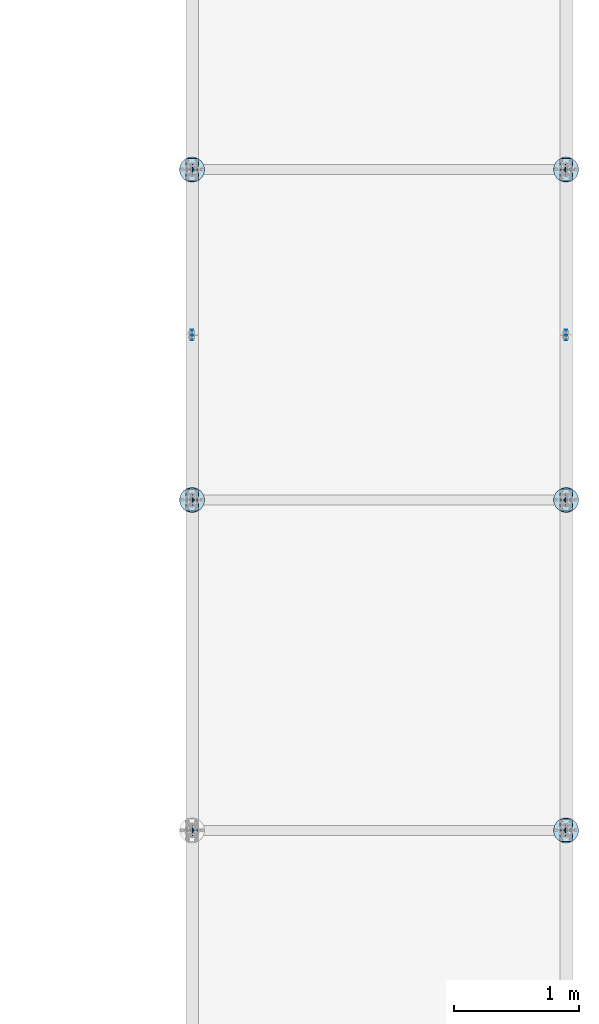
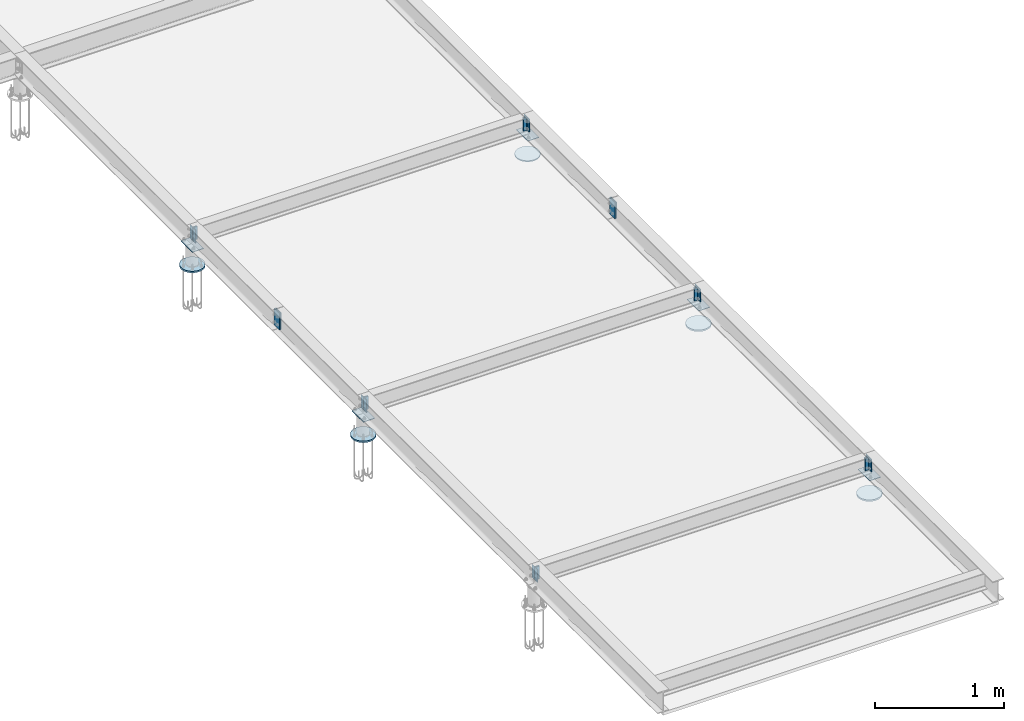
# One storey, part 6 of 84: 26 plates.
"""IFC4 building model written with IfcOpenShell, lengths in metres."""

import ifcopenshell
import ifcopenshell.guid

model = None  # the IFC model being written
_history = None  # IfcOwnerHistory: only IFC2X3 demands one
_inside = {}  # id of a spatial element -> (the spatial element, [elements in it])
_under = {}  # id of a project, library or spatial element -> (it, [spatial elements below it])
_declared = {}  # id of a project -> (the project, [libraries it declares])
_typed = {}  # id of a type object -> (the type object, [elements of that type])
_made_of = {}  # id of a material, layer set ... -> (it, [elements and type objects made of it])


def new_model(schema):
    """Start an empty IFC model of exactly this schema.

    Asked for "IFC4X3", IfcOpenShell would pick the latest addendum, in which some entities
    have other attributes; the version numbers below select the first issue.
    IFC2X3 requires an IfcOwnerHistory on every rooted entity: one is made here for all.
    """
    global model, _history
    if schema == "IFC4X3":
        model = ifcopenshell.file(schema_version=(4, 3, 0, 0))
    else:
        model = ifcopenshell.file(schema=schema)
    _inside.clear()
    _under.clear()
    _declared.clear()
    _typed.clear()
    _made_of.clear()
    _history = None
    if model.schema == "IFC2X3":
        org = make("IfcOrganization", Name="unknown")
        user = make(
            "IfcPersonAndOrganization",
            ThePerson=make("IfcPerson", FamilyName="unknown"),
            TheOrganization=org,
        )
        app = make(
            "IfcApplication",
            ApplicationDeveloper=org,
            Version="unknown",
            ApplicationFullName="unknown",
            ApplicationIdentifier="unknown",
        )
        _history = make(
            "IfcOwnerHistory",
            OwningUser=user,
            OwningApplication=app,
            ChangeAction="ADDED",
            CreationDate=0,
        )
    return model


def make(cls, **values):
    """One entity of the class cls with the attributes given. An attribute that is None is left unset."""
    return model.create_entity(
        cls, **{name: value for name, value in values.items() if value is not None}
    )


def rooted(cls, **values):
    """An entity with a GlobalId (a new one), such as an element, a storey or a relation."""
    return make(cls, GlobalId=ifcopenshell.guid.new(), OwnerHistory=_history, **values)


def si_unit(unit_type, name, prefix=None):
    """IfcSIUnit, for example si_unit("LENGTHUNIT", "METRE", prefix="MILLI")."""
    return make("IfcSIUnit", UnitType=unit_type, Prefix=prefix, Name=name)


def assignment(units):
    """IfcUnitAssignment: the units of a project."""
    return None if units is None else make("IfcUnitAssignment", Units=units)


def point(xyz):
    """IfcCartesianPoint."""
    return None if xyz is None else make("IfcCartesianPoint", Coordinates=xyz)


def direction(xyz):
    """IfcDirection."""
    return None if xyz is None else make("IfcDirection", DirectionRatios=xyz)


def frame(location, z_axis=None, x_axis=None):
    """IfcAxis2Placement3D, a coordinate frame: its origin and axes. An axis left out is left unset."""
    return make(
        "IfcAxis2Placement3D",
        Location=point(location),
        Axis=direction(z_axis),
        RefDirection=direction(x_axis),
    )


def origin_with_axes():
    """The frame at (0, 0, 0) with the z axis (0, 0, 1) and the x axis (1, 0, 0) written out."""
    return frame((0.0, 0.0, 0.0), z_axis=(0.0, 0.0, 1.0), x_axis=(1.0, 0.0, 0.0))


def place(relative_to, where):
    """IfcLocalPlacement: puts the frame where relative to a parent placement (None: the world)."""
    return make(
        "IfcLocalPlacement", PlacementRelTo=relative_to, RelativePlacement=where
    )


def context(
    kind, dimensions, precision=None, world=None, true_north=None, identifier=None
):
    """IfcGeometricRepresentationContext, for example the 3D "Model" context."""
    return make(
        "IfcGeometricRepresentationContext",
        ContextIdentifier=identifier,
        ContextType=kind,
        CoordinateSpaceDimension=dimensions,
        Precision=precision,
        WorldCoordinateSystem=world,
        TrueNorth=true_north,
    )


def project(units=None, contexts=None):
    """IfcProject with its units and contexts."""
    return rooted(
        "IfcProject",
        Name="project",
        RepresentationContexts=contexts,
        UnitsInContext=assignment(units),
    )


def spatial(cls, under=None, at=None, **own):
    """A site, building, storey or space (cls), placed at a placement, below another one or the project."""
    s = rooted(cls, ObjectPlacement=at, **own)
    if under is not None:
        _under.setdefault(under.id(), (under, []))[1].append(s)
    return s


def polyline(points):
    """IfcPolyline through the points."""
    return make("IfcPolyline", Points=[point(p) for p in points])


def outline(outer, holes=None, kind="AREA"):
    """IfcArbitraryClosedProfileDef: a profile drawn as a closed curve; with holes, ...WithVoids."""
    if holes is None:
        return make("IfcArbitraryClosedProfileDef", ProfileType=kind, OuterCurve=outer)
    return make(
        "IfcArbitraryProfileDefWithVoids",
        ProfileType=kind,
        OuterCurve=outer,
        InnerCurves=holes,
    )


def extrude(swept, where, along, depth):
    """IfcExtrudedAreaSolid: the profile swept, set in the frame where, extruded along a direction by depth."""
    return make(
        "IfcExtrudedAreaSolid",
        SweptArea=swept,
        Position=where,
        ExtrudedDirection=direction(along),
        Depth=depth,
    )


def shape(context_of_items, identifier, shape_type, items):
    """IfcShapeRepresentation: the items that make up one representation, for example the "Body"."""
    return make(
        "IfcShapeRepresentation",
        ContextOfItems=context_of_items,
        RepresentationIdentifier=identifier,
        RepresentationType=shape_type,
        Items=items,
    )


def made_of(thing, what):
    """Note that an element or type object is made of a material, layer set ...; save() writes the relation."""
    if what is not None:
        _made_of.setdefault(what.id(), (what, []))[1].append(thing)
    return thing


def type_object(cls, material=None, **own):
    """A type object (cls), such as IfcWallType, which elements share."""
    return made_of(rooted(cls, **own), material)


def element(
    cls,
    number,
    at=None,
    inside=None,
    cuts=None,
    type_object=None,
    material=None,
    context=None,
    identifier="Body",
    shape_type=None,
    held_by="IfcProductDefinitionShape",
    body=None,
    shapes=None,
    **own,
):
    """One element of the class cls, such as IfcWall. Its Tag is "e" and its number.

    at: its placement. inside: the storey or other place that contains it. cuts: it is an
    opening in that element (IfcRelVoidsElement). A single representation is given by context,
    identifier, shape_type and body (its items); several are given by shapes. held_by: the class
    of the entity that holds the representations. save() writes the other relations.
    """
    e = rooted(cls, Tag="e%d" % number, ObjectPlacement=at, **own)
    if body is not None:
        shapes = [shape(context, identifier, shape_type, body)]
    if shapes is not None:
        e.Representation = make(held_by, Representations=shapes)
    if inside is not None:
        _inside.setdefault(inside.id(), (inside, []))[1].append(e)
    if cuts is not None:
        rooted(
            "IfcRelVoidsElement", RelatingBuildingElement=cuts, RelatedOpeningElement=e
        )
    if type_object is not None:
        _typed.setdefault(type_object.id(), (type_object, []))[1].append(e)
    return made_of(e, material)


def aggregate(whole, parts):
    """IfcRelAggregates: a whole, such as a stair, and the parts it consists of."""
    return rooted("IfcRelAggregates", RelatingObject=whole, RelatedObjects=parts)


def save(model, path):
    """Write the relations noted so far, then the file.

    IfcRelAggregates (storeys below a building ...), IfcRelContainedInSpatialStructure (elements
    in a storey), IfcRelDefinesByType, IfcRelAssociatesMaterial and IfcRelDeclares: one each for
    every whole, place, type object, material and project.
    """
    for whole, parts in _under.values():
        aggregate(whole, parts)
    for where, things in _inside.values():
        rooted(
            "IfcRelContainedInSpatialStructure",
            RelatedElements=things,
            RelatingStructure=where,
        )
    for kind, things in _typed.values():
        rooted("IfcRelDefinesByType", RelatedObjects=things, RelatingType=kind)
    for what, things in _made_of.values():
        rooted("IfcRelAssociatesMaterial", RelatedObjects=things, RelatingMaterial=what)
    for by, libraries in _declared.values():
        rooted("IfcRelDeclares", RelatingContext=by, RelatedDefinitions=libraries)
    model.write(path)


model = new_model("IFC4")

# Units and contexts
model_context = context("Model", 3, precision=1e-05, world=origin_with_axes())
ifc_project = project(units=[si_unit("LENGTHUNIT", "METRE"), si_unit("AREAUNIT", "SQUARE_METRE"), si_unit("VOLUMEUNIT", "CUBIC_METRE"), si_unit("MASSUNIT", "GRAM", prefix="KILO"), si_unit("TIMEUNIT", "SECOND"), si_unit("PLANEANGLEUNIT", "RADIAN"), si_unit("SOLIDANGLEUNIT", "STERADIAN"), si_unit("THERMODYNAMICTEMPERATUREUNIT", "DEGREE_CELSIUS")], contexts=[model_context])

# Site, building, storey
placement_1 = place(None, origin_with_axes())
site = spatial("IfcSite", under=ifc_project, at=placement_1, Name="Italia", CompositionType="ELEMENT")
building = spatial("IfcBuilding", under=site, at=placement_1, Name="Tettoia", CompositionType="ELEMENT")
storey_placement = place(None, frame((0.0, 0.0, 4.199999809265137), z_axis=(0.0, 0.0, 1.0), x_axis=(1.0, 0.0, 0.0)))
storey = spatial("IfcBuildingStorey", under=building, at=storey_placement, Name="Storey 1", CompositionType="ELEMENT", Elevation=4.199999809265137)

# Plates
plate_type_1 = type_object("IfcPlateType", Name="Collegamento -002_0102", PredefinedType="SHEET")
placement_2 = place(placement_1, origin_with_axes())
plate_1_placement = place(placement_2, origin_with_axes())
element("IfcPlate", 1, at=plate_1_placement, inside=storey, type_object=plate_type_1, Name="Collegamento -002_0102", context=model_context, shape_type="SweptSolid", body=[
    extrude(outline(polyline([(0.0, 0.0), (-0.00366306, -0.0152588), (-0.00966811, -0.0297556), (-0.0178671, -0.0431356), (-0.0280581, -0.055068), (-0.0399902, -0.065259), (-0.0533698, -0.0734577), (-0.067867, -0.0794621), (-0.0831254, -0.0831261), (-0.0987687, -0.0843573), (-0.114412, -0.0831261), (-0.12967, -0.0794621), (-0.144168, -0.0734577), (-0.157547, -0.065259), (-0.169479, -0.055068), (-0.17967, -0.0431356), (-0.187869, -0.0297556), (-0.193874, -0.0152588), (-0.197538, 0.0), (-0.198769, 0.0156431), (-0.197538, 0.0312862), (-0.193874, 0.046545), (-0.187869, 0.0610418), (-0.17967, 0.0744219), (-0.169479, 0.0863543), (-0.157547, 0.0965452), (-0.144168, 0.104744), (-0.12967, 0.110748), (-0.114412, 0.114412), (-0.0987687, 0.115644), (-0.0831254, 0.114412), (-0.067867, 0.110748), (-0.0533698, 0.104744), (-0.0399902, 0.0965452), (-0.0280581, 0.0863543), (-0.0178671, 0.0744219), (-0.00966811, 0.0610418), (-0.00366306, 0.046545), (0.0, 0.0312862), (0.00123119, 0.0156431), (0.0, 0.0)])), frame((11.3056, 2.09877, 4.0), z_axis=(0.0, 0.0, 1.0), x_axis=(0.0, 1.0, 0.0)), (0.0, 0.0, 1.0), 0.0149999),
])
plate_type_2 = type_object("IfcPlateType", Name="Collegamento -003_0103", PredefinedType="SHEET")
plate_2_placement = place(placement_2, origin_with_axes())
element("IfcPlate", 2, at=plate_2_placement, inside=storey, type_object=plate_type_2, Name="Collegamento -003_0103", context=model_context, shape_type="SweptSolid", body=[
    extrude(outline(polyline([(0.0, 0.0), (-0.00366306, -0.0152588), (-0.00966787, -0.0297556), (-0.0178671, -0.0431356), (-0.0280581, -0.055068), (-0.0399904, -0.065259), (-0.0533695, -0.0734577), (-0.0678668, -0.0794621), (-0.0831251, -0.0831261), (-0.0987687, -0.0843573), (-0.114412, -0.0831261), (-0.129671, -0.0794621), (-0.144168, -0.0734577), (-0.157547, -0.065259), (-0.169479, -0.055068), (-0.17967, -0.0431356), (-0.18787, -0.0297556), (-0.193874, -0.0152588), (-0.197537, 0.0), (-0.198769, 0.0156431), (-0.197537, 0.0312862), (-0.193874, 0.046545), (-0.18787, 0.0610418), (-0.17967, 0.0744219), (-0.169479, 0.0863543), (-0.157547, 0.0965452), (-0.144168, 0.104744), (-0.129671, 0.110748), (-0.114412, 0.114412), (-0.0987687, 0.115644), (-0.0831251, 0.114412), (-0.0678668, 0.110748), (-0.0533695, 0.104744), (-0.0399904, 0.0965452), (-0.0280581, 0.0863543), (-0.0178671, 0.0744219), (-0.00966787, 0.0610418), (-0.00366306, 0.046545), (0.0, 0.0312862), (0.00123119, 0.0156431), (0.0, 0.0)])), frame((8.30564, 4.74877, 4.0), z_axis=(0.0, 0.0, 1.0), x_axis=(0.0, 1.0, 0.0)), (0.0, 0.0, 1.0), 0.0149999),
])
plate_type_3 = type_object("IfcPlateType", Name="Collegamento -004_0104", PredefinedType="SHEET")
plate_3_placement = place(placement_2, origin_with_axes())
element("IfcPlate", 3, at=plate_3_placement, inside=storey, type_object=plate_type_3, Name="Collegamento -004_0104", context=model_context, shape_type="SweptSolid", body=[
    extrude(outline(polyline([(0.0, 0.0), (-0.00366306, -0.0152588), (-0.00966787, -0.0297556), (-0.0178671, -0.0431356), (-0.0280581, -0.055068), (-0.0399904, -0.065259), (-0.0533695, -0.0734577), (-0.0678668, -0.0794621), (-0.0831251, -0.0831261), (-0.0987687, -0.0843573), (-0.114412, -0.0831261), (-0.129671, -0.0794621), (-0.144168, -0.0734577), (-0.157547, -0.065259), (-0.169479, -0.055068), (-0.17967, -0.0431356), (-0.18787, -0.0297556), (-0.193874, -0.0152588), (-0.197537, 0.0), (-0.198769, 0.0156431), (-0.197537, 0.0312862), (-0.193874, 0.046545), (-0.18787, 0.0610418), (-0.17967, 0.0744219), (-0.169479, 0.0863543), (-0.157547, 0.0965452), (-0.144168, 0.104744), (-0.129671, 0.110748), (-0.114412, 0.114412), (-0.0987687, 0.115644), (-0.0831251, 0.114412), (-0.0678668, 0.110748), (-0.0533695, 0.104744), (-0.0399904, 0.0965452), (-0.0280581, 0.0863543), (-0.0178671, 0.0744219), (-0.00966787, 0.0610418), (-0.00366306, 0.046545), (0.0, 0.0312862), (0.00123119, 0.0156431), (0.0, 0.0)])), frame((11.3056, 4.74877, 4.0), z_axis=(0.0, 0.0, 1.0), x_axis=(0.0, 1.0, 0.0)), (0.0, 0.0, 1.0), 0.0149999),
])
plate_type_4 = type_object("IfcPlateType", Name="Collegamento -005_0105", PredefinedType="SHEET")
plate_4_placement = place(placement_2, origin_with_axes())
element("IfcPlate", 4, at=plate_4_placement, inside=storey, type_object=plate_type_4, Name="Collegamento -005_0105", context=model_context, shape_type="SweptSolid", body=[
    extrude(outline(polyline([(0.0, 0.0), (-0.00366306, -0.0152588), (-0.00966787, -0.0297556), (-0.0178671, -0.0431356), (-0.0280581, -0.055068), (-0.0399904, -0.065259), (-0.0533695, -0.0734577), (-0.0678668, -0.0794621), (-0.0831251, -0.0831261), (-0.0987687, -0.0843573), (-0.114412, -0.0831261), (-0.129671, -0.0794621), (-0.144168, -0.0734577), (-0.157547, -0.065259), (-0.169479, -0.055068), (-0.17967, -0.0431356), (-0.18787, -0.0297556), (-0.193874, -0.0152588), (-0.197537, 0.0), (-0.198769, 0.0156431), (-0.197537, 0.0312862), (-0.193874, 0.046545), (-0.18787, 0.0610418), (-0.17967, 0.0744219), (-0.169479, 0.0863543), (-0.157547, 0.0965452), (-0.144168, 0.104744), (-0.129671, 0.110748), (-0.114412, 0.114412), (-0.0987687, 0.115644), (-0.0831251, 0.114412), (-0.0678668, 0.110748), (-0.0533695, 0.104744), (-0.0399904, 0.0965452), (-0.0280581, 0.0863543), (-0.0178671, 0.0744219), (-0.00966787, 0.0610418), (-0.00366306, 0.046545), (0.0, 0.0312862), (0.00123119, 0.0156431), (0.0, 0.0)])), frame((8.30564, 7.39877, 4.0), z_axis=(0.0, 0.0, 1.0), x_axis=(0.0, 1.0, 0.0)), (0.0, 0.0, 1.0), 0.0149999),
])
plate_type_5 = type_object("IfcPlateType", Name="Collegamento -006_0106", PredefinedType="SHEET")
plate_5_placement = place(placement_2, origin_with_axes())
element("IfcPlate", 5, at=plate_5_placement, inside=storey, type_object=plate_type_5, Name="Collegamento -006_0106", context=model_context, shape_type="SweptSolid", body=[
    extrude(outline(polyline([(0.0, 0.0), (-0.00366306, -0.0152588), (-0.00966787, -0.0297556), (-0.0178671, -0.0431356), (-0.0280581, -0.055068), (-0.0399904, -0.065259), (-0.0533695, -0.0734577), (-0.0678668, -0.0794621), (-0.0831251, -0.0831261), (-0.0987687, -0.0843573), (-0.114412, -0.0831261), (-0.129671, -0.0794621), (-0.144168, -0.0734577), (-0.157547, -0.065259), (-0.169479, -0.055068), (-0.17967, -0.0431356), (-0.18787, -0.0297556), (-0.193874, -0.0152588), (-0.197537, 0.0), (-0.198769, 0.0156431), (-0.197537, 0.0312862), (-0.193874, 0.046545), (-0.18787, 0.0610418), (-0.17967, 0.0744219), (-0.169479, 0.0863543), (-0.157547, 0.0965452), (-0.144168, 0.104744), (-0.129671, 0.110748), (-0.114412, 0.114412), (-0.0987687, 0.115644), (-0.0831251, 0.114412), (-0.0678668, 0.110748), (-0.0533695, 0.104744), (-0.0399904, 0.0965452), (-0.0280581, 0.0863543), (-0.0178671, 0.0744219), (-0.00966787, 0.0610418), (-0.00366306, 0.046545), (0.0, 0.0312862), (0.00123119, 0.0156431), (0.0, 0.0)])), frame((11.3056, 7.39877, 4.0), z_axis=(0.0, 0.0, 1.0), x_axis=(0.0, 1.0, 0.0)), (0.0, 0.0, 1.0), 0.0100002),
])
plate_type_6 = type_object("IfcPlateType", Name="Collegamento 0101_0102", PredefinedType="SHEET")
plate_6_placement = place(placement_2, origin_with_axes())
element("IfcPlate", 6, at=plate_6_placement, inside=storey, type_object=plate_type_6, Name="Collegamento 0101_0102", context=model_context, shape_type="SweptSolid", body=[
    extrude(outline(polyline([(0.0, 0.0), (0.00300002, 0.0), (0.00414801, -0.000227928), (0.00512123, -0.000878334), (0.00577164, -0.00185204), (0.00600004, -0.00300026), (0.00600004, -0.0279999), (0.00645661, -0.0302963), (0.00775719, -0.0322428), (0.00970387, -0.0335436), (0.0119998, -0.0340004), (0.0369999, -0.0340004), (0.0381479, -0.0342283), (0.0391212, -0.0348787), (0.0397716, -0.0358515), (0.04, -0.0369997), (0.04, -0.04), (0.0, -0.04), (0.0, 0.0)])), frame((8.3328, 2.0025, 4.361), z_axis=(0.0, 0.0, -1.0), x_axis=(0.0, 1.0, 0.0)), (0.0, 0.0, 1.0), 0.122),
])
plate_type_7 = type_object("IfcPlateType", Name="Collegamento 0101_0102", PredefinedType="SHEET")
plate_7_placement = place(placement_2, origin_with_axes())
element("IfcPlate", 7, at=plate_7_placement, inside=storey, type_object=plate_type_7, Name="Collegamento 0101_0102", context=model_context, shape_type="SweptSolid", body=[
    extrude(outline(polyline([(0.0, 0.0), (0.000228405, 0.00114822), (0.000878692, 0.00212097), (0.00185192, 0.00277138), (0.00300002, 0.00299931), (0.028, 0.00299931), (0.0302961, 0.00345612), (0.0322427, 0.00475693), (0.0335433, 0.00670338), (0.034, 0.00899982), (0.034, 0.0339994), (0.0342283, 0.0351477), (0.0348787, 0.0361214), (0.035852, 0.0367718), (0.0370001, 0.0369997), (0.04, 0.0369997), (0.04, -0.00300026), (0.0, -0.00300026), (0.0, 0.0)])), frame((8.2958, 1.9575, 4.361), z_axis=(0.0, 0.0, -1.0), x_axis=(0.0, 1.0, 0.0)), (0.0, 0.0, 1.0), 0.122),
])
plate_type_8 = type_object("IfcPlateType", Name="Collegamento 0102_-002", PredefinedType="SHEET")
plate_8_placement = place(placement_2, origin_with_axes())
element("IfcPlate", 8, at=plate_8_placement, inside=storey, type_object=plate_type_8, Name="Collegamento 0102_-002", context=model_context, shape_type="SweptSolid", body=[
    extrude(outline(polyline([(0.0, 0.0), (-0.18, 0.0), (-0.18, 0.101), (0.0, 0.101), (0.0, 0.0)])), frame((11.3405, 2.09, 4.195), z_axis=(0.0, 0.0, 1.0), x_axis=(0.0, 1.0, 0.0)), (0.0, 0.0, 1.0), 0.00500011),
])
plate_type_9 = type_object("IfcPlateType", Name="Collegamento 0102_0101", PredefinedType="SHEET")
plate_9_placement = place(placement_2, origin_with_axes())
element("IfcPlate", 9, at=plate_9_placement, inside=storey, type_object=plate_type_9, Name="Collegamento 0102_0101", context=model_context, shape_type="SweptSolid", body=[
    extrude(outline(polyline([(0.0, 0.0), (-0.0029999, 0.0), (-0.00414801, 0.000227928), (-0.00512123, 0.000878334), (-0.00577164, 0.00185204), (-0.00599992, 0.00300026), (-0.00599992, 0.0279999), (-0.00645661, 0.0302963), (-0.00775731, 0.0322428), (-0.00970387, 0.0335436), (-0.012, 0.0340004), (-0.0369999, 0.0340004), (-0.038148, 0.0342283), (-0.0391213, 0.0348787), (-0.0397716, 0.0358515), (-0.04, 0.0369997), (-0.04, 0.04), (0.0, 0.04), (0.0, 0.0)])), frame((11.2472, 1.9975, 4.361), z_axis=(0.0, 0.0, -1.0), x_axis=(0.0, 1.0, 0.0)), (0.0, 0.0, 1.0), 0.122),
])
plate_type_10 = type_object("IfcPlateType", Name="Collegamento 0102_0101", PredefinedType="SHEET")
plate_10_placement = place(placement_2, origin_with_axes())
element("IfcPlate", 10, at=plate_10_placement, inside=storey, type_object=plate_type_10, Name="Collegamento 0102_0101", context=model_context, shape_type="SweptSolid", body=[
    extrude(outline(polyline([(0.0, 0.0), (-0.000228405, -0.00114822), (-0.000878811, -0.00212097), (-0.00185204, -0.00277138), (-0.00300002, -0.00299931), (-0.0280001, -0.00299931), (-0.0302961, -0.00345612), (-0.0322428, -0.00475693), (-0.0335433, -0.00670338), (-0.0339999, -0.00899982), (-0.0339999, -0.0339994), (-0.0342283, -0.0351477), (-0.0348787, -0.0361214), (-0.035852, -0.0367718), (-0.0369999, -0.0369997), (-0.04, -0.0369997), (-0.04, 0.00300026), (0.0, 0.00300026), (0.0, 0.0)])), frame((11.2842, 2.0425, 4.361), z_axis=(0.0, 0.0, -1.0), x_axis=(0.0, 1.0, 0.0)), (0.0, 0.0, 1.0), 0.122),
])
plate_type_11 = type_object("IfcPlateType", Name="Collegamento 0103_-003", PredefinedType="SHEET")
plate_11_placement = place(placement_2, origin_with_axes())
element("IfcPlate", 11, at=plate_11_placement, inside=storey, type_object=plate_type_11, Name="Collegamento 0103_-003", context=model_context, shape_type="SweptSolid", body=[
    extrude(outline(polyline([(0.0, 0.0), (-0.18, 0.0), (-0.18, 0.101), (0.0, 0.101), (0.0, 0.0)])), frame((8.3405, 4.74, 4.195), z_axis=(0.0, 0.0, 1.0), x_axis=(0.0, 1.0, 0.0)), (0.0, 0.0, 1.0), 0.00500011),
])
plate_type_12 = type_object("IfcPlateType", Name="Collegamento 0103_0104", PredefinedType="SHEET")
plate_12_placement = place(placement_2, origin_with_axes())
element("IfcPlate", 12, at=plate_12_placement, inside=storey, type_object=plate_type_12, Name="Collegamento 0103_0104", context=model_context, shape_type="SweptSolid", body=[
    extrude(outline(polyline([(0.0, 0.0), (0.00299978, 0.0), (0.00414801, -0.000227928), (0.00512123, -0.000878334), (0.00577164, -0.00185204), (0.00600004, -0.00300026), (0.00600004, -0.0279999), (0.00645685, -0.0302963), (0.00775719, -0.0322428), (0.00970364, -0.0335436), (0.0120001, -0.0340004), (0.0370002, -0.0340004), (0.0381479, -0.0342283), (0.0391212, -0.0348787), (0.0397716, -0.0358515), (0.04, -0.0369997), (0.04, -0.04), (0.0, -0.04), (0.0, 0.0)])), frame((8.3328, 4.6525, 4.361), z_axis=(0.0, 0.0, -1.0), x_axis=(0.0, 1.0, 0.0)), (0.0, 0.0, 1.0), 0.122),
])
plate_type_13 = type_object("IfcPlateType", Name="Collegamento 0103_0104", PredefinedType="SHEET")
plate_13_placement = place(placement_2, origin_with_axes())
element("IfcPlate", 13, at=plate_13_placement, inside=storey, type_object=plate_type_13, Name="Collegamento 0103_0104", context=model_context, shape_type="SweptSolid", body=[
    extrude(outline(polyline([(0.0, 0.0), (0.000228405, 0.00114822), (0.000878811, 0.00212097), (0.00185204, 0.00277138), (0.00299978, 0.00299931), (0.0279999, 0.00299931), (0.0302963, 0.00345612), (0.0322428, 0.00475693), (0.0335431, 0.00670338), (0.0339999, 0.00899982), (0.0339999, 0.0339994), (0.0342283, 0.0351477), (0.0348787, 0.0361214), (0.035852, 0.0367718), (0.0370002, 0.0369997), (0.04, 0.0369997), (0.04, -0.00300026), (0.0, -0.00300026), (0.0, 0.0)])), frame((8.2958, 4.6075, 4.361), z_axis=(0.0, 0.0, -1.0), x_axis=(0.0, 1.0, 0.0)), (0.0, 0.0, 1.0), 0.122),
])
plate_type_14 = type_object("IfcPlateType", Name="Collegamento 0104_-004", PredefinedType="SHEET")
plate_14_placement = place(placement_2, origin_with_axes())
element("IfcPlate", 14, at=plate_14_placement, inside=storey, type_object=plate_type_14, Name="Collegamento 0104_-004", context=model_context, shape_type="SweptSolid", body=[
    extrude(outline(polyline([(0.0, 0.0), (-0.18, 0.0), (-0.18, 0.101), (0.0, 0.101), (0.0, 0.0)])), frame((11.3405, 4.74, 4.195), z_axis=(0.0, 0.0, 1.0), x_axis=(0.0, 1.0, 0.0)), (0.0, 0.0, 1.0), 0.00500011),
])
plate_type_15 = type_object("IfcPlateType", Name="Collegamento 0104_0103", PredefinedType="SHEET")
plate_15_placement = place(placement_2, origin_with_axes())
element("IfcPlate", 15, at=plate_15_placement, inside=storey, type_object=plate_type_15, Name="Collegamento 0104_0103", context=model_context, shape_type="SweptSolid", body=[
    extrude(outline(polyline([(0.0, 0.0), (-0.00299978, 0.0), (-0.00414801, 0.000227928), (-0.00512123, 0.000878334), (-0.00577164, 0.00185204), (-0.00600004, 0.00300026), (-0.00600004, 0.0279999), (-0.00645685, 0.0302963), (-0.00775719, 0.0322428), (-0.00970364, 0.0335436), (-0.0120001, 0.0340004), (-0.0370002, 0.0340004), (-0.0381479, 0.0342283), (-0.0391212, 0.0348787), (-0.0397716, 0.0358515), (-0.04, 0.0369997), (-0.04, 0.04), (0.0, 0.04), (0.0, 0.0)])), frame((11.2472, 4.6475, 4.361), z_axis=(0.0, 0.0, -1.0), x_axis=(0.0, 1.0, 0.0)), (0.0, 0.0, 1.0), 0.122),
])
plate_type_16 = type_object("IfcPlateType", Name="Collegamento 0104_0103", PredefinedType="SHEET")
plate_16_placement = place(placement_2, origin_with_axes())
element("IfcPlate", 16, at=plate_16_placement, inside=storey, type_object=plate_type_16, Name="Collegamento 0104_0103", context=model_context, shape_type="SweptSolid", body=[
    extrude(outline(polyline([(0.0, 0.0), (-0.000228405, -0.00114822), (-0.000878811, -0.00212097), (-0.00185204, -0.00277138), (-0.00299978, -0.00299931), (-0.0279999, -0.00299931), (-0.0302963, -0.00345612), (-0.0322428, -0.00475693), (-0.0335431, -0.00670338), (-0.0339999, -0.00899982), (-0.0339999, -0.0339994), (-0.0342283, -0.0351477), (-0.0348787, -0.0361214), (-0.035852, -0.0367718), (-0.0370002, -0.0369997), (-0.04, -0.0369997), (-0.04, 0.00300026), (0.0, 0.00300026), (0.0, 0.0)])), frame((11.2842, 4.6925, 4.361), z_axis=(0.0, 0.0, -1.0), x_axis=(0.0, 1.0, 0.0)), (0.0, 0.0, 1.0), 0.122),
])
plate_type_17 = type_object("IfcPlateType", Name="Collegamento 0105_-005", PredefinedType="SHEET")
plate_17_placement = place(placement_2, origin_with_axes())
element("IfcPlate", 17, at=plate_17_placement, inside=storey, type_object=plate_type_17, Name="Collegamento 0105_-005", context=model_context, shape_type="SweptSolid", body=[
    extrude(outline(polyline([(0.0, 0.0), (-0.18, 0.0), (-0.18, 0.101), (0.0, 0.101), (0.0, 0.0)])), frame((8.3405, 7.39, 4.195), z_axis=(0.0, 0.0, 1.0), x_axis=(0.0, 1.0, 0.0)), (0.0, 0.0, 1.0), 0.00500011),
])
plate_type_18 = type_object("IfcPlateType", Name="Collegamento 0105_0106", PredefinedType="SHEET")
plate_18_placement = place(placement_2, origin_with_axes())
element("IfcPlate", 18, at=plate_18_placement, inside=storey, type_object=plate_type_18, Name="Collegamento 0105_0106", context=model_context, shape_type="SweptSolid", body=[
    extrude(outline(polyline([(0.0, 0.0), (0.00299978, 0.0), (0.00414801, -0.000227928), (0.00512123, -0.000878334), (0.00577164, -0.00185204), (0.00600004, -0.00300026), (0.00600004, -0.0279999), (0.00645685, -0.0302963), (0.00775719, -0.0322428), (0.00970364, -0.0335436), (0.0120001, -0.0340004), (0.0370002, -0.0340004), (0.0381479, -0.0342283), (0.0391212, -0.0348787), (0.0397716, -0.0358515), (0.04, -0.0369997), (0.04, -0.04), (0.0, -0.04), (0.0, 0.0)])), frame((8.3328, 7.3025, 4.361), z_axis=(0.0, 0.0, -1.0), x_axis=(0.0, 1.0, 0.0)), (0.0, 0.0, 1.0), 0.122),
])
plate_type_19 = type_object("IfcPlateType", Name="Collegamento 0105_0106", PredefinedType="SHEET")
plate_19_placement = place(placement_2, origin_with_axes())
element("IfcPlate", 19, at=plate_19_placement, inside=storey, type_object=plate_type_19, Name="Collegamento 0105_0106", context=model_context, shape_type="SweptSolid", body=[
    extrude(outline(polyline([(0.0, 0.0), (0.000228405, 0.00114822), (0.000878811, 0.00212097), (0.00185204, 0.00277138), (0.00299978, 0.00299931), (0.0279999, 0.00299931), (0.0302963, 0.00345612), (0.0322428, 0.00475693), (0.0335431, 0.00670338), (0.0339999, 0.00899982), (0.0339999, 0.0339994), (0.0342283, 0.0351477), (0.0348787, 0.0361214), (0.035852, 0.0367718), (0.0370002, 0.0369997), (0.04, 0.0369997), (0.04, -0.00300026), (0.0, -0.00300026), (0.0, 0.0)])), frame((8.2958, 7.2575, 4.361), z_axis=(0.0, 0.0, -1.0), x_axis=(0.0, 1.0, 0.0)), (0.0, 0.0, 1.0), 0.122),
])
plate_type_20 = type_object("IfcPlateType", Name="Collegamento 0106_-006", PredefinedType="SHEET")
plate_20_placement = place(placement_2, origin_with_axes())
element("IfcPlate", 20, at=plate_20_placement, inside=storey, type_object=plate_type_20, Name="Collegamento 0106_-006", context=model_context, shape_type="SweptSolid", body=[
    extrude(outline(polyline([(0.0, 0.0), (-0.18, 0.0), (-0.18, 0.101), (0.0, 0.101), (0.0, 0.0)])), frame((11.3405, 7.39, 4.195), z_axis=(0.0, 0.0, 1.0), x_axis=(0.0, 1.0, 0.0)), (0.0, 0.0, 1.0), 0.00500011),
])
plate_type_21 = type_object("IfcPlateType", Name="Collegamento 0106_0105", PredefinedType="SHEET")
plate_21_placement = place(placement_2, origin_with_axes())
element("IfcPlate", 21, at=plate_21_placement, inside=storey, type_object=plate_type_21, Name="Collegamento 0106_0105", context=model_context, shape_type="SweptSolid", body=[
    extrude(outline(polyline([(0.0, 0.0), (-0.00299978, 0.0), (-0.00414801, 0.000227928), (-0.00512123, 0.000878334), (-0.00577164, 0.00185204), (-0.00600004, 0.00300026), (-0.00600004, 0.0279999), (-0.00645685, 0.0302963), (-0.00775719, 0.0322428), (-0.00970364, 0.0335436), (-0.0120001, 0.0340004), (-0.0370002, 0.0340004), (-0.0381479, 0.0342283), (-0.0391212, 0.0348787), (-0.0397716, 0.0358515), (-0.04, 0.0369997), (-0.04, 0.04), (0.0, 0.04), (0.0, 0.0)])), frame((11.2472, 7.2975, 4.361), z_axis=(0.0, 0.0, -1.0), x_axis=(0.0, 1.0, 0.0)), (0.0, 0.0, 1.0), 0.122),
])
plate_type_22 = type_object("IfcPlateType", Name="Collegamento 0106_0105", PredefinedType="SHEET")
plate_22_placement = place(placement_2, origin_with_axes())
element("IfcPlate", 22, at=plate_22_placement, inside=storey, type_object=plate_type_22, Name="Collegamento 0106_0105", context=model_context, shape_type="SweptSolid", body=[
    extrude(outline(polyline([(0.0, 0.0), (-0.000228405, -0.00114822), (-0.000878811, -0.00212097), (-0.00185204, -0.00277138), (-0.00299978, -0.00299931), (-0.0279999, -0.00299931), (-0.0302963, -0.00345612), (-0.0322428, -0.00475693), (-0.0335431, -0.00670338), (-0.0339999, -0.00899982), (-0.0339999, -0.0339994), (-0.0342283, -0.0351477), (-0.0348787, -0.0361214), (-0.035852, -0.0367718), (-0.0370002, -0.0369997), (-0.04, -0.0369997), (-0.04, 0.00300026), (0.0, 0.00300026), (0.0, 0.0)])), frame((11.2842, 7.3425, 4.361), z_axis=(0.0, 0.0, -1.0), x_axis=(0.0, 1.0, 0.0)), (0.0, 0.0, 1.0), 0.122),
])
plate_type_23 = type_object("IfcPlateType", Name="Collegamento 0118_0103", PredefinedType="SHEET")
plate_23_placement = place(placement_2, origin_with_axes())
element("IfcPlate", 23, at=plate_23_placement, inside=storey, type_object=plate_type_23, Name="Collegamento 0118_0103", context=model_context, shape_type="SweptSolid", body=[
    extrude(outline(polyline([(0.0, 0.0), (-0.086, 0.0), (-0.086, -0.156), (0.0, -0.156), (0.0, 0.0)])), frame((8.2928, 6.016, 4.378), z_axis=(1.0, 0.0, 0.0), x_axis=(0.0, 1.0, 0.0)), (0.0, 0.0, 1.0), 0.00599957),
])
plate_type_24 = type_object("IfcPlateType", Name="Collegamento 0118_0103", PredefinedType="SHEET")
plate_24_placement = place(placement_2, origin_with_axes())
element("IfcPlate", 24, at=plate_24_placement, inside=storey, type_object=plate_type_24, Name="Collegamento 0118_0103", context=model_context, shape_type="SweptSolid", body=[
    extrude(outline(polyline([(0.0, 0.0), (-0.086, 0.0), (-0.086, -0.156), (0.0, -0.156), (0.0, 0.0)])), frame((8.2812, 6.016, 4.378), z_axis=(1.0, 0.0, 0.0), x_axis=(0.0, 1.0, 0.0)), (0.0, 0.0, 1.0), 0.00599957),
])
plate_type_25 = type_object("IfcPlateType", Name="Collegamento 0119_0104", PredefinedType="SHEET")
plate_25_placement = place(placement_2, origin_with_axes())
element("IfcPlate", 25, at=plate_25_placement, inside=storey, type_object=plate_type_25, Name="Collegamento 0119_0104", context=model_context, shape_type="SweptSolid", body=[
    extrude(outline(polyline([(0.0, 0.0), (-0.086, 0.0), (-0.086, -0.156), (0.0, -0.156), (0.0, 0.0)])), frame((11.2928, 6.016, 4.378), z_axis=(1.0, 0.0, 0.0), x_axis=(0.0, 1.0, 0.0)), (0.0, 0.0, 1.0), 0.00599957),
])
plate_type_26 = type_object("IfcPlateType", Name="Collegamento 0119_0104", PredefinedType="SHEET")
plate_26_placement = place(placement_2, origin_with_axes())
element("IfcPlate", 26, at=plate_26_placement, inside=storey, type_object=plate_type_26, Name="Collegamento 0119_0104", context=model_context, shape_type="SweptSolid", body=[
    extrude(outline(polyline([(0.0, 0.0), (-0.086, 0.0), (-0.086, -0.156), (0.0, -0.156), (0.0, 0.0)])), frame((11.2812, 6.016, 4.378), z_axis=(1.0, 0.0, 0.0), x_axis=(0.0, 1.0, 0.0)), (0.0, 0.0, 1.0), 0.00599957),
])

save(model, "model.ifc")
